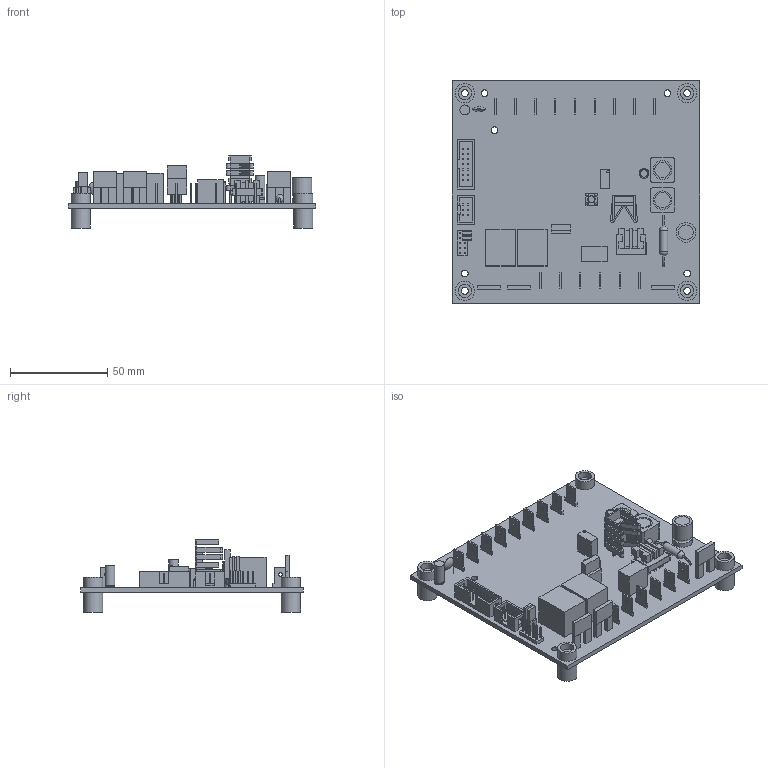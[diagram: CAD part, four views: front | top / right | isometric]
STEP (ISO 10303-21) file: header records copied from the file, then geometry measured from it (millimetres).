
FILE_DESCRIPTION(/* description */ (''),/* implementation_level */ '2;1');
FILE_NAME(/* name */ 'S:\Drawings - Mcs Hardware\Electrical Parts\MCS-DS-INTERFACE\MCS-DS-INTERFACE.stp',/* time_stamp */ '2017-10-25T09:34:29-04:00',/* author */ ('Ian L Mitchell'),/* organization */ ('unknown'),/* preprocessor_version */ 'ST-DEVELOPER v16.5',/* originating_system */ 'Autodesk Inventor 2017',/* authorisation */ '');
FILE_SCHEMA (('AUTOMOTIVE_DESIGN { 1 0 10303 214 3 1 1 }'));
Length unit declared in the file: inch
Products named in the file (1): MCS-DS-INTERFACE
Bounding box: 127 x 114.3 x 37.12 mm (x, y, z)
Volume: 59777.6 mm3; surface area: 55340.3 mm2
Topology: 72 solids, 72 shells, 890 faces, 2112 edges, 1401 vertices
Faces by surface type: plane 745, cylinder 128, sphere 10, torus 5, bspline 2
Full cylindrical faces by diameter (mm): 0.254 x4, 1.143 x4, 1.27 x1, 1.905 x15, 3.378 x1, 3.429 x5, 3.556 x4, 3.81 x3, 4.318 x1, 5.08 x4, 5.905 x3, 5.906 x1, 5.969 x8, 6.858 x4, 7.175 x2, 7.176 x2, 7.62 x2, 7.937 x2, 9.525 x2, 9.906 x4, 9.969 x2, 9.97 x2, 10.16 x2
Entity records: 25401 total; most frequent: CARTESIAN_POINT 4966, DIRECTION 3990, ORIENTED_EDGE 3984, EDGE_CURVE 1992, LINE 1708, VECTOR 1708, VERTEX_POINT 1368, AXIS2_PLACEMENT_3D 1141
